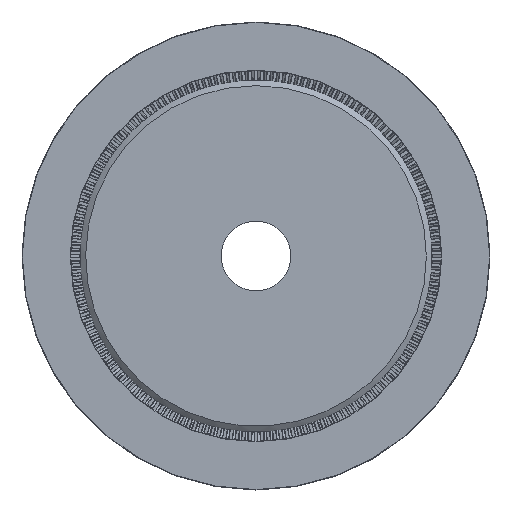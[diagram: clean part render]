
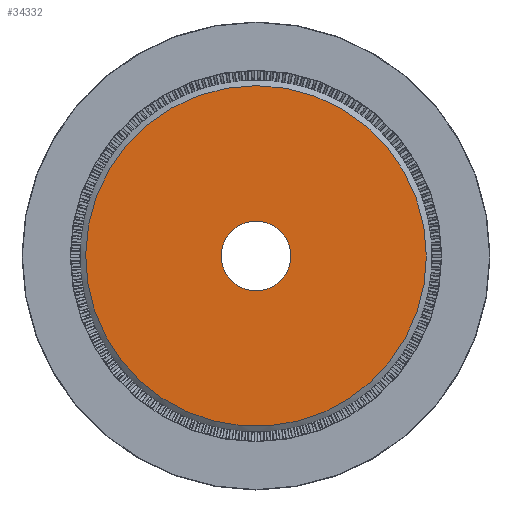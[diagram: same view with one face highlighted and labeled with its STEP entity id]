
A CAD part, top view. The second image highlights one B-rep face of the part: STEP entity #34332.
In plain terms, the highlighted planar face has unit normal (0, 0, 1).
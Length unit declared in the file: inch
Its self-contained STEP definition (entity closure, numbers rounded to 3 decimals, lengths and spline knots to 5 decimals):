
#502 = AXIS2_PLACEMENT_3D ( 'NONE', #84878, #7605, #57026 ) ;
#7444 = CARTESIAN_POINT ( 'NONE',  ( 0., 0., -0.25 ) ) ;
#7605 = DIRECTION ( 'NONE',  ( 0., 0., 1. ) ) ;
#10472 = AXIS2_PLACEMENT_3D ( 'NONE', #65960, #23634, #73069 ) ;
#14178 = VERTEX_POINT ( 'NONE', #16394 ) ;
#14592 = DIRECTION ( 'NONE',  ( 1., 0., 0. ) ) ;
#16394 = CARTESIAN_POINT ( 'NONE',  ( 14.675, 0., -0.25 ) ) ;
#19929 = ORIENTED_EDGE ( 'NONE', *, *, #46933, .T. ) ;
#23634 = DIRECTION ( 'NONE',  ( 0., 0., 1. ) ) ;
#25908 = ORIENTED_EDGE ( 'NONE', *, *, #88045, .T. ) ;
#33177 = FACE_OUTER_BOUND ( 'NONE', #76611, .T. ) ;
#34332 = ADVANCED_FACE ( 'NONE', ( #33177, #87353 ), #49926, .T. ) ;
#37999 = CIRCLE ( 'NONE', #40386, 3. ) ;
#40386 = AXIS2_PLACEMENT_3D ( 'NONE', #7444, #56861, #14592 ) ;
#46933 = EDGE_CURVE ( 'NONE', #76341, #76341, #37999, .T. ) ;
#49926 = PLANE ( 'NONE',  #502 ) ;
#56861 = DIRECTION ( 'NONE',  ( 0., 0., -1. ) ) ;
#57026 = DIRECTION ( 'NONE',  ( 1., 0., 0. ) ) ;
#58911 = CIRCLE ( 'NONE', #10472, 14.675 ) ;
#65960 = CARTESIAN_POINT ( 'NONE',  ( 0., 0., -0.25 ) ) ;
#73069 = DIRECTION ( 'NONE',  ( 1., 0., 0. ) ) ;
#76341 = VERTEX_POINT ( 'NONE', #86838 ) ;
#76460 = EDGE_LOOP ( 'NONE', ( #19929 ) ) ;
#76611 = EDGE_LOOP ( 'NONE', ( #25908 ) ) ;
#84878 = CARTESIAN_POINT ( 'NONE',  ( 0., 2.08005, -0.25 ) ) ;
#86838 = CARTESIAN_POINT ( 'NONE',  ( 3., 0., -0.25 ) ) ;
#87353 = FACE_BOUND ( 'NONE', #76460, .T. ) ;
#88045 = EDGE_CURVE ( 'NONE', #14178, #14178, #58911, .T. ) ;
